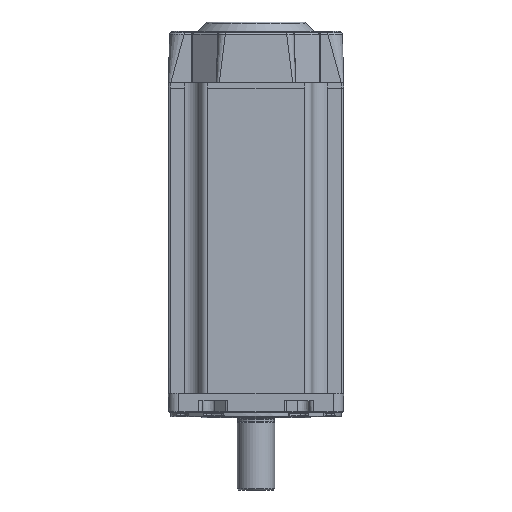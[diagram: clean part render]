
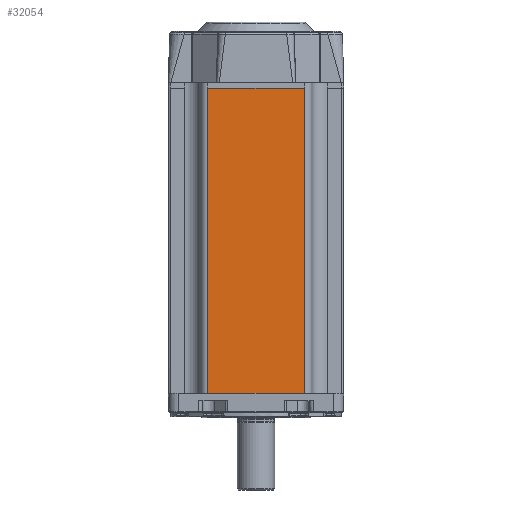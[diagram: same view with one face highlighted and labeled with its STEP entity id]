
A CAD part, front view. The second image highlights one B-rep face of the part: STEP entity #32054.
In plain terms, the highlighted planar face has unit normal (0, -1, 0).
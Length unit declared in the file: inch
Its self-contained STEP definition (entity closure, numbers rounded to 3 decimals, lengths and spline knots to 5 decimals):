
#29834=CARTESIAN_POINT('',(1.2275,-2.225,-7.75));
#29835=VERTEX_POINT('',#29834);
#29842=CARTESIAN_POINT('',(-1.2275,-2.225,-7.75));
#29843=VERTEX_POINT('',#29842);
#29844=CARTESIAN_POINT('',(-1.2275,-2.225,-7.75));
#29845=DIRECTION('',(1.0,0.0,0.0));
#29846=VECTOR('',#29845,2.455);
#29847=LINE('',#29844,#29846);
#29848=EDGE_CURVE('',#29843,#29835,#29847,.T.);
#31955=CARTESIAN_POINT('',(1.2275,-2.225,0.));
#31956=VERTEX_POINT('',#31955);
#31957=CARTESIAN_POINT('',(1.2275,-2.225,0.));
#31958=DIRECTION('',(0.0,0.0,-1.0));
#31959=VECTOR('',#31958,7.75);
#31960=LINE('',#31957,#31959);
#31961=EDGE_CURVE('',#31956,#29835,#31960,.T.);
#32031=CARTESIAN_POINT('',(1.415,-2.225,0.0));
#32032=DIRECTION('',(0.0,-1.0,0.0));
#32033=DIRECTION('',(0.0,0.0,-1.0));
#32034=AXIS2_PLACEMENT_3D('',#32031,#32032,#32033);
#32035=PLANE('',#32034);
#32036=CARTESIAN_POINT('',(-1.2275,-2.225,0.));
#32037=VERTEX_POINT('',#32036);
#32038=CARTESIAN_POINT('',(1.2275,-2.225,0.));
#32039=DIRECTION('',(-1.0,0.0,0.0));
#32040=VECTOR('',#32039,2.455);
#32041=LINE('',#32038,#32040);
#32042=EDGE_CURVE('',#31956,#32037,#32041,.T.);
#32043=ORIENTED_EDGE('',*,*,#32042,.T.);
#32044=CARTESIAN_POINT('',(-1.2275,-2.225,-7.75));
#32045=DIRECTION('',(0.0,0.0,1.0));
#32046=VECTOR('',#32045,7.75);
#32047=LINE('',#32044,#32046);
#32048=EDGE_CURVE('',#29843,#32037,#32047,.T.);
#32049=ORIENTED_EDGE('',*,*,#32048,.F.);
#32050=ORIENTED_EDGE('',*,*,#29848,.T.);
#32051=ORIENTED_EDGE('',*,*,#31961,.F.);
#32052=EDGE_LOOP('',(#32043,#32049,#32050,#32051));
#32053=FACE_OUTER_BOUND('',#32052,.T.);
#32054=ADVANCED_FACE('',(#32053),#32035,.T.);
